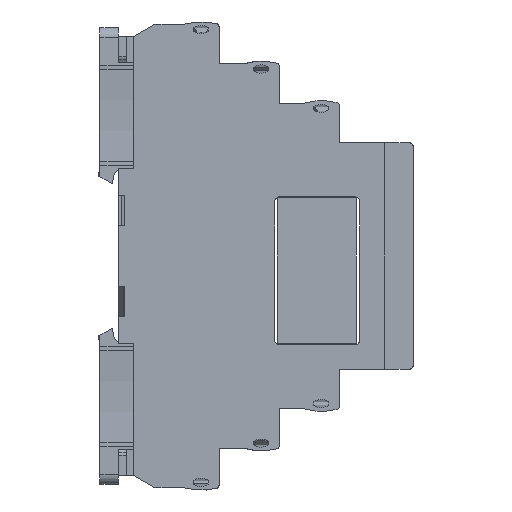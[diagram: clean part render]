
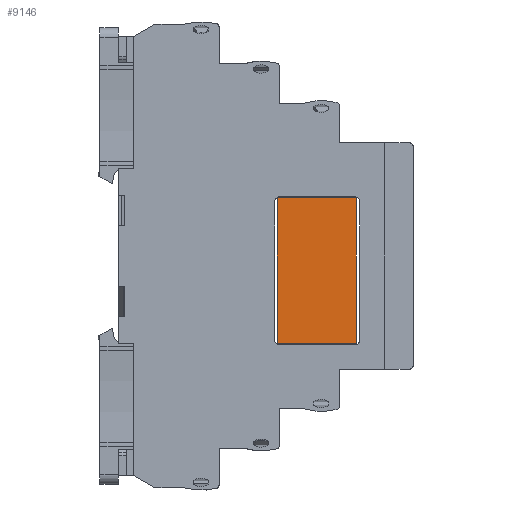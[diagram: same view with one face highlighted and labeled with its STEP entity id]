
A CAD part, front view. The second image highlights one B-rep face of the part: STEP entity #9146.
In plain terms, the highlighted planar face has unit normal (0, -1, 0).
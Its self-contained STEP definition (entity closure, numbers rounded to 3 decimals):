
#9146=ADVANCED_FACE('',(#100518),#100520,.F.);
#100518=FACE_BOUND('',#100519,.T.);
#100519=EDGE_LOOP('',(#167009,#167010,#167011,#167012));
#100520=PLANE('',#100521);
#100521=AXIS2_PLACEMENT_3D('',#100522,#100523,#100524);
#100522=CARTESIAN_POINT('',(0.,0.,0.));
#100523=DIRECTION('',(0.,1.,0.));
#100524=DIRECTION('',(-1.,0.,0.));
#167009=ORIENTED_EDGE('',*,*,#227320,.F.);
#167010=ORIENTED_EDGE('',*,*,#227317,.F.);
#167011=ORIENTED_EDGE('',*,*,#227314,.F.);
#167012=ORIENTED_EDGE('',*,*,#227310,.F.);
#227310=EDGE_CURVE('',#259126,#259127,#259128,.T.);
#227314=EDGE_CURVE('',#259127,#259134,#259135,.T.);
#227317=EDGE_CURVE('',#259134,#259139,#259140,.T.);
#227320=EDGE_CURVE('',#259139,#259126,#259144,.T.);
#259126=VERTEX_POINT('',#329106);
#259127=VERTEX_POINT('',#329107);
#259128=LINE('',#329108,#329109);
#259134=VERTEX_POINT('',#329122);
#259135=LINE('',#329123,#329124);
#259139=VERTEX_POINT('',#329133);
#259140=LINE('',#329134,#329135);
#259144=LINE('',#329144,#329145);
#329106=CARTESIAN_POINT('',(-7.9,0.,14.5));
#329107=CARTESIAN_POINT('',(7.9,0.,14.5));
#329108=CARTESIAN_POINT('',(-7.9,0.,14.5));
#329109=VECTOR('',#329110,1.);
#329110=DIRECTION('',(1.,0.,0.));
#329122=CARTESIAN_POINT('',(7.9,0.,-14.5));
#329123=CARTESIAN_POINT('',(7.9,0.,14.5));
#329124=VECTOR('',#329125,1.);
#329125=DIRECTION('',(0.,0.,-1.));
#329133=CARTESIAN_POINT('',(-7.9,0.,-14.5));
#329134=CARTESIAN_POINT('',(7.9,0.,-14.5));
#329135=VECTOR('',#329136,1.);
#329136=DIRECTION('',(-1.,0.,0.));
#329144=CARTESIAN_POINT('',(-7.9,0.,-14.5));
#329145=VECTOR('',#329146,1.);
#329146=DIRECTION('',(0.,0.,1.));
